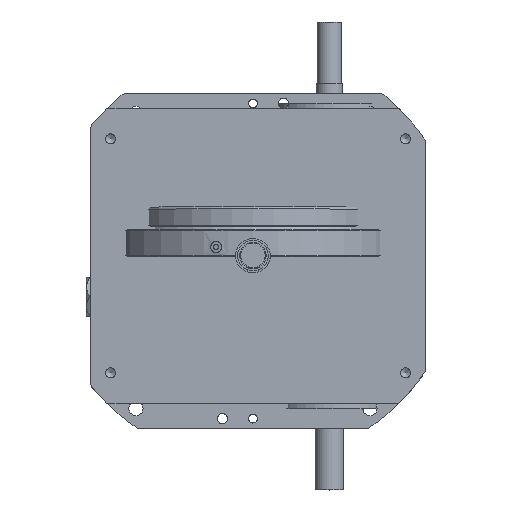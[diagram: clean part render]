
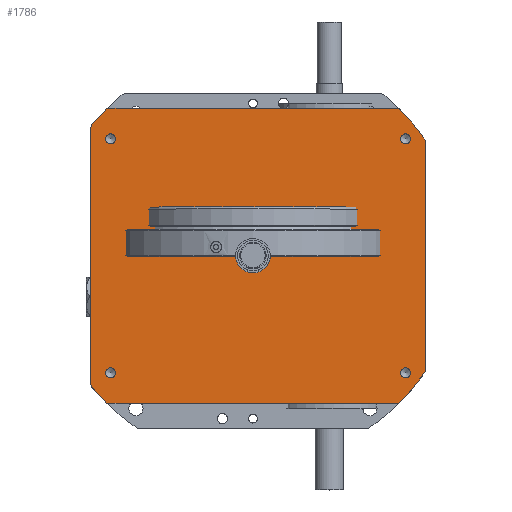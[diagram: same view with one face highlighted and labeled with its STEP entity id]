
A CAD part, top view. The second image highlights one B-rep face of the part: STEP entity #1786.
In plain terms, the highlighted planar face has unit normal (0, 0, 1).
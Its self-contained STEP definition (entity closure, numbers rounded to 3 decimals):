
#1786 = ADVANCED_FACE( '', ( #3319, #3320, #3321, #3322, #3323, #3324 ), #3325, .F. );
#3319 = FACE_BOUND( '', #6221, .T. );
#3320 = FACE_BOUND( '', #6222, .T. );
#3321 = FACE_BOUND( '', #6223, .T. );
#3322 = FACE_BOUND( '', #6224, .T. );
#3323 = FACE_BOUND( '', #6225, .T. );
#3324 = FACE_OUTER_BOUND( '', #6226, .T. );
#3325 = PLANE( '', #6227 );
#6221 = EDGE_LOOP( '', ( #9785 ) );
#6222 = EDGE_LOOP( '', ( #9786 ) );
#6223 = EDGE_LOOP( '', ( #9787 ) );
#6224 = EDGE_LOOP( '', ( #9788 ) );
#6225 = EDGE_LOOP( '', ( #9789 ) );
#6226 = EDGE_LOOP( '', ( #9790, #9791, #9792, #9793, #9794, #9795, #9796, #9797 ) );
#6227 = AXIS2_PLACEMENT_3D( '', #9798, #9799, #9800 );
#9785 = ORIENTED_EDGE( '', *, *, #13062, .T. );
#9786 = ORIENTED_EDGE( '', *, *, #13063, .T. );
#9787 = ORIENTED_EDGE( '', *, *, #13064, .T. );
#9788 = ORIENTED_EDGE( '', *, *, #13065, .T. );
#9789 = ORIENTED_EDGE( '', *, *, #13066, .T. );
#9790 = ORIENTED_EDGE( '', *, *, #13067, .T. );
#9791 = ORIENTED_EDGE( '', *, *, #13068, .F. );
#9792 = ORIENTED_EDGE( '', *, *, #13069, .T. );
#9793 = ORIENTED_EDGE( '', *, *, #13070, .F. );
#9794 = ORIENTED_EDGE( '', *, *, #13071, .F. );
#9795 = ORIENTED_EDGE( '', *, *, #13072, .F. );
#9796 = ORIENTED_EDGE( '', *, *, #13073, .F. );
#9797 = ORIENTED_EDGE( '', *, *, #13074, .F. );
#9798 = CARTESIAN_POINT( '', ( 0., 0., 31.5 ) );
#9799 = DIRECTION( '', ( 0., 0., -1. ) );
#9800 = DIRECTION( '', ( -1., 0., 0. ) );
#13062 = EDGE_CURVE( '', #15296, #15296, #15297, .T. );
#13063 = EDGE_CURVE( '', #15298, #15298, #15299, .T. );
#13064 = EDGE_CURVE( '', #15300, #15300, #15301, .T. );
#13065 = EDGE_CURVE( '', #15302, #15302, #15303, .T. );
#13066 = EDGE_CURVE( '', #15304, #15304, #15305, .T. );
#13067 = EDGE_CURVE( '', #15306, #15307, #15308, .T. );
#13068 = EDGE_CURVE( '', #15309, #15307, #15310, .T. );
#13069 = EDGE_CURVE( '', #15309, #15311, #15312, .T. );
#13070 = EDGE_CURVE( '', #15313, #15311, #15314, .T. );
#13071 = EDGE_CURVE( '', #15315, #15313, #15316, .T. );
#13072 = EDGE_CURVE( '', #15317, #15315, #15318, .T. );
#13073 = EDGE_CURVE( '', #15319, #15317, #15320, .T. );
#13074 = EDGE_CURVE( '', #15306, #15319, #15321, .T. );
#15296 = VERTEX_POINT( '', #21036 );
#15297 = CIRCLE( '', #21037, 7.5 );
#15298 = VERTEX_POINT( '', #21038 );
#15299 = CIRCLE( '', #21039, 2.455 );
#15300 = VERTEX_POINT( '', #21040 );
#15301 = CIRCLE( '', #21041, 2.455 );
#15302 = VERTEX_POINT( '', #21042 );
#15303 = CIRCLE( '', #21043, 2.455 );
#15304 = VERTEX_POINT( '', #21044 );
#15305 = CIRCLE( '', #21045, 2.455 );
#15306 = VERTEX_POINT( '', #21046 );
#15307 = VERTEX_POINT( '', #21047 );
#15308 = LINE( '', #21048, #21049 );
#15309 = VERTEX_POINT( '', #21050 );
#15310 = CIRCLE( '', #21051, 102. );
#15311 = VERTEX_POINT( '', #21052 );
#15312 = LINE( '', #21053, #21054 );
#15313 = VERTEX_POINT( '', #21055 );
#15314 = CIRCLE( '', #21056, 102. );
#15315 = VERTEX_POINT( '', #21057 );
#15316 = LINE( '', #21058, #21059 );
#15317 = VERTEX_POINT( '', #21060 );
#15318 = CIRCLE( '', #21061, 102. );
#15319 = VERTEX_POINT( '', #21062 );
#15320 = LINE( '', #21063, #21064 );
#15321 = CIRCLE( '', #21065, 102. );
#21036 = CARTESIAN_POINT( '', ( 0., -7.5, 31.5 ) );
#21037 = AXIS2_PLACEMENT_3D( '', #24302, #24303, #24304 );
#21038 = CARTESIAN_POINT( '', ( -70., 55.045, 31.5 ) );
#21039 = AXIS2_PLACEMENT_3D( '', #24305, #24306, #24307 );
#21040 = CARTESIAN_POINT( '', ( 75., 55.045, 31.5 ) );
#21041 = AXIS2_PLACEMENT_3D( '', #24308, #24309, #24310 );
#21042 = CARTESIAN_POINT( '', ( 75., -59.955, 31.5 ) );
#21043 = AXIS2_PLACEMENT_3D( '', #24311, #24312, #24313 );
#21044 = CARTESIAN_POINT( '', ( -70., -59.955, 31.5 ) );
#21045 = AXIS2_PLACEMENT_3D( '', #24314, #24315, #24316 );
#21046 = CARTESIAN_POINT( '', ( 85., -56.383, 31.5 ) );
#21047 = CARTESIAN_POINT( '', ( 85., 56.383, 31.5 ) );
#21048 = CARTESIAN_POINT( '', ( 85., -56.383, 31.5 ) );
#21049 = VECTOR( '', #24317, 1000. );
#21050 = CARTESIAN_POINT( '', ( 71.748, 72.5, 31.5 ) );
#21051 = AXIS2_PLACEMENT_3D( '', #24318, #24319, #24320 );
#21052 = CARTESIAN_POINT( '', ( -71.748, 72.5, 31.5 ) );
#21053 = CARTESIAN_POINT( '', ( 71.748, 72.5, 31.5 ) );
#21054 = VECTOR( '', #24321, 1000. );
#21055 = CARTESIAN_POINT( '', ( -80., 63.277, 31.5 ) );
#21056 = AXIS2_PLACEMENT_3D( '', #24322, #24323, #24324 );
#21057 = CARTESIAN_POINT( '', ( -80., -63.277, 31.5 ) );
#21058 = CARTESIAN_POINT( '', ( -80., -63.277, 31.5 ) );
#21059 = VECTOR( '', #24325, 1000. );
#21060 = CARTESIAN_POINT( '', ( -71.748, -72.5, 31.5 ) );
#21061 = AXIS2_PLACEMENT_3D( '', #24326, #24327, #24328 );
#21062 = CARTESIAN_POINT( '', ( 71.748, -72.5, 31.5 ) );
#21063 = CARTESIAN_POINT( '', ( 71.748, -72.5, 31.5 ) );
#21064 = VECTOR( '', #24329, 1000. );
#21065 = AXIS2_PLACEMENT_3D( '', #24330, #24331, #24332 );
#24302 = CARTESIAN_POINT( '', ( 0., 0., 31.5 ) );
#24303 = DIRECTION( '', ( 0., 0., -1. ) );
#24304 = DIRECTION( '', ( 0., -1., 0. ) );
#24305 = CARTESIAN_POINT( '', ( -70., 57.5, 31.5 ) );
#24306 = DIRECTION( '', ( 0., 0., -1. ) );
#24307 = DIRECTION( '', ( 0., -1., 0. ) );
#24308 = CARTESIAN_POINT( '', ( 75., 57.5, 31.5 ) );
#24309 = DIRECTION( '', ( 0., 0., -1. ) );
#24310 = DIRECTION( '', ( 0., -1., 0. ) );
#24311 = CARTESIAN_POINT( '', ( 75., -57.5, 31.5 ) );
#24312 = DIRECTION( '', ( 0., 0., -1. ) );
#24313 = DIRECTION( '', ( 0., -1., 0. ) );
#24314 = CARTESIAN_POINT( '', ( -70., -57.5, 31.5 ) );
#24315 = DIRECTION( '', ( 0., 0., -1. ) );
#24316 = DIRECTION( '', ( 0., -1., 0. ) );
#24317 = DIRECTION( '', ( 0., 1., 0. ) );
#24318 = CARTESIAN_POINT( '', ( 0., 0., 31.5 ) );
#24319 = DIRECTION( '', ( 0., 0., -1. ) );
#24320 = DIRECTION( '', ( 1., 0., 0. ) );
#24321 = DIRECTION( '', ( -1., 0., 0. ) );
#24322 = CARTESIAN_POINT( '', ( 0., 0., 31.5 ) );
#24323 = DIRECTION( '', ( 0., 0., -1. ) );
#24324 = DIRECTION( '', ( 1., 0., 0. ) );
#24325 = DIRECTION( '', ( 0., 1., 0. ) );
#24326 = CARTESIAN_POINT( '', ( 0., 0., 31.5 ) );
#24327 = DIRECTION( '', ( 0., 0., -1. ) );
#24328 = DIRECTION( '', ( 1., 0., 0. ) );
#24329 = DIRECTION( '', ( -1., 0., 0. ) );
#24330 = CARTESIAN_POINT( '', ( 0., 0., 31.5 ) );
#24331 = DIRECTION( '', ( 0., 0., -1. ) );
#24332 = DIRECTION( '', ( 1., 0., 0. ) );
